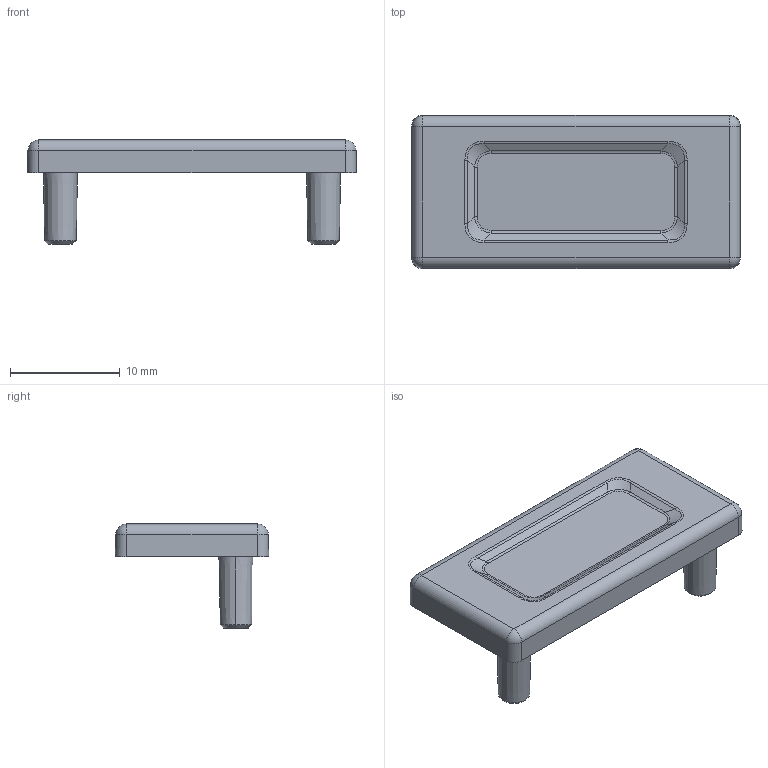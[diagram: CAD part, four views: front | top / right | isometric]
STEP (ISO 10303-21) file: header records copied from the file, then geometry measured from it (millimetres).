
FILE_DESCRIPTION (( 'STEP AP203' ), '1' );
FILE_NAME ('013.100.042.STEP', '2021-11-15T08:47:13', ( '' ), ( '' ), 'SwSTEP 2.0', 'SolidWorks 2018', '' );
FILE_SCHEMA (( 'CONFIG_CONTROL_DESIGN' ));
Length unit declared in the file: millimetre
Products named in the file (1): 013.100.042
Bounding box: 30 x 14 x 9.5 mm (x, y, z)
Volume: 995.3 mm3; surface area: 1305.8 mm2
Topology: 1 solids, 1 shells, 301 faces, 777 edges, 498 vertices
Faces by surface type: plane 200, cone 31, cylinder 30, bspline 28, torus 8, sphere 4
Entity records: 9910 total; most frequent: CARTESIAN_POINT 2653, ORIENTED_EDGE 1554, DIRECTION 1387, EDGE_CURVE 777, LINE 595, VECTOR 595, VERTEX_POINT 498, AXIS2_PLACEMENT_3D 396
